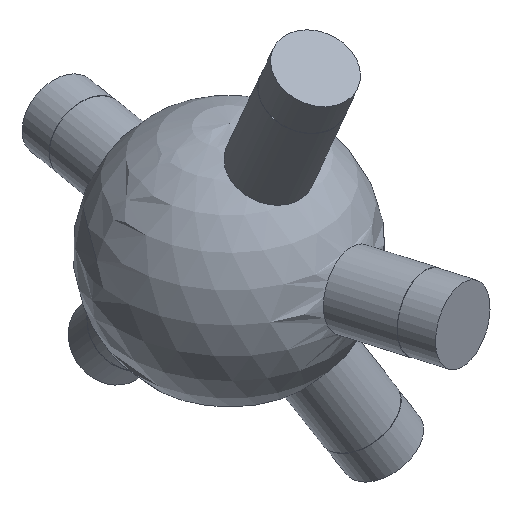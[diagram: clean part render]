
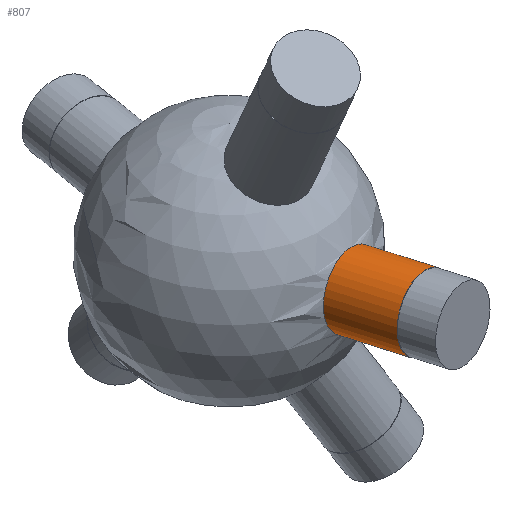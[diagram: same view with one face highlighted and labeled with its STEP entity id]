
A CAD part, isometric view. The second image highlights one B-rep face of the part: STEP entity #807.
In plain terms, the highlighted cylindrical face has radius 6 mm (diameter 12 mm), a full revolution.
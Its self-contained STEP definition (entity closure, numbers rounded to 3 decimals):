
#33 = SPHERICAL_SURFACE('',#34,20.);
#34 = AXIS2_PLACEMENT_3D('',#35,#36,#37);
#35 = CARTESIAN_POINT('',(0.,0.,0.));
#36 = DIRECTION('',(0.,0.,1.));
#37 = DIRECTION('',(1.,0.,-0.));
#415 = EDGE_CURVE('',#416,#416,#418,.T.);
#416 = VERTEX_POINT('',#417);
#417 = CARTESIAN_POINT('',(-2.734,-19.731,
    1.791));
#418 = SURFACE_CURVE('',#419,(#424,#486),.PCURVE_S1.);
#419 = CIRCLE('',#420,6.);
#420 = AXIS2_PLACEMENT_3D('',#421,#422,#423);
#421 = CARTESIAN_POINT('',(3.181,-18.726,1.791
    ));
#422 = DIRECTION('',(0.167,-0.982,0.094)
  );
#423 = DIRECTION('',(0.986,0.167,0.)
  );
#424 = PCURVE('',#33,#425);
#425 = DEFINITIONAL_REPRESENTATION('',(#426),#485);
#426 = B_SPLINE_CURVE_WITH_KNOTS('',8,(#427,#428,#429,#430,#431,#432,
    #433,#434,#435,#436,#437,#438,#439,#440,#441,#442,#443,#444,#445,
    #446,#447,#448,#449,#450,#451,#452,#453,#454,#455,#456,#457,#458,
    #459,#460,#461,#462,#463,#464,#465,#466,#467,#468,#469,#470,#471,
    #472,#473,#474,#475,#476,#477,#478,#479,#480,#481,#482,#483,#484),
  .UNSPECIFIED.,.F.,.F.,(9,7,7,7,7,7,7,7,9),(3.142,
    3.927,4.614,5.216,6.268,
    7.057,7.649,8.537,9.425),
  .UNSPECIFIED.);
#427 = CARTESIAN_POINT('',(4.575,0.09));
#428 = CARTESIAN_POINT('',(4.576,0.06));
#429 = CARTESIAN_POINT('',(4.58,0.031));
#430 = CARTESIAN_POINT('',(4.587,0.002));
#431 = CARTESIAN_POINT('',(4.597,-0.026));
#432 = CARTESIAN_POINT('',(4.61,-0.053));
#433 = CARTESIAN_POINT('',(4.626,-0.078));
#434 = CARTESIAN_POINT('',(4.644,-0.101));
#435 = CARTESIAN_POINT('',(4.684,-0.14));
#436 = CARTESIAN_POINT('',(4.704,-0.157));
#437 = CARTESIAN_POINT('',(4.725,-0.171));
#438 = CARTESIAN_POINT('',(4.749,-0.184));
#439 = CARTESIAN_POINT('',(4.773,-0.194));
#440 = CARTESIAN_POINT('',(4.798,-0.201));
#441 = CARTESIAN_POINT('',(4.824,-0.207));
#442 = CARTESIAN_POINT('',(4.874,-0.211));
#443 = CARTESIAN_POINT('',(4.897,-0.212));
#444 = CARTESIAN_POINT('',(4.92,-0.21));
#445 = CARTESIAN_POINT('',(4.943,-0.206));
#446 = CARTESIAN_POINT('',(4.965,-0.201));
#447 = CARTESIAN_POINT('',(4.987,-0.193));
#448 = CARTESIAN_POINT('',(5.008,-0.184));
#449 = CARTESIAN_POINT('',(5.063,-0.154));
#450 = CARTESIAN_POINT('',(5.095,-0.129));
#451 = CARTESIAN_POINT('',(5.123,-0.1));
#452 = CARTESIAN_POINT('',(5.146,-0.067));
#453 = CARTESIAN_POINT('',(5.164,-0.032));
#454 = CARTESIAN_POINT('',(5.177,0.006));
#455 = CARTESIAN_POINT('',(5.185,0.046));
#456 = CARTESIAN_POINT('',(5.188,0.115));
#457 = CARTESIAN_POINT('',(5.186,0.144));
#458 = CARTESIAN_POINT('',(5.181,0.174));
#459 = CARTESIAN_POINT('',(5.172,0.203));
#460 = CARTESIAN_POINT('',(5.161,0.23));
#461 = CARTESIAN_POINT('',(5.146,0.257));
#462 = CARTESIAN_POINT('',(5.128,0.281));
#463 = CARTESIAN_POINT('',(5.092,0.319));
#464 = CARTESIAN_POINT('',(5.075,0.335));
#465 = CARTESIAN_POINT('',(5.056,0.349));
#466 = CARTESIAN_POINT('',(5.036,0.361));
#467 = CARTESIAN_POINT('',(5.015,0.371));
#468 = CARTESIAN_POINT('',(4.993,0.38));
#469 = CARTESIAN_POINT('',(4.97,0.387));
#470 = CARTESIAN_POINT('',(4.912,0.399));
#471 = CARTESIAN_POINT('',(4.875,0.402));
#472 = CARTESIAN_POINT('',(4.839,0.4));
#473 = CARTESIAN_POINT('',(4.802,0.394));
#474 = CARTESIAN_POINT('',(4.768,0.383));
#475 = CARTESIAN_POINT('',(4.735,0.368));
#476 = CARTESIAN_POINT('',(4.706,0.349));
#477 = CARTESIAN_POINT('',(4.653,0.305));
#478 = CARTESIAN_POINT('',(4.63,0.28));
#479 = CARTESIAN_POINT('',(4.611,0.252));
#480 = CARTESIAN_POINT('',(4.595,0.221));
#481 = CARTESIAN_POINT('',(4.584,0.189));
#482 = CARTESIAN_POINT('',(4.577,0.156));
#483 = CARTESIAN_POINT('',(4.574,0.123));
#484 = CARTESIAN_POINT('',(4.575,0.09));
#485 = ( GEOMETRIC_REPRESENTATION_CONTEXT(2) 
PARAMETRIC_REPRESENTATION_CONTEXT() REPRESENTATION_CONTEXT('2D SPACE',''
  ) );
#486 = PCURVE('',#487,#492);
#487 = CYLINDRICAL_SURFACE('',#488,6.);
#488 = AXIS2_PLACEMENT_3D('',#489,#490,#491);
#489 = CARTESIAN_POINT('',(0.,0.,0.));
#490 = DIRECTION('',(0.167,-0.982,0.094)
  );
#491 = DIRECTION('',(-0.986,-0.167,0.)
  );
#492 = DEFINITIONAL_REPRESENTATION('',(#493),#497);
#493 = LINE('',#494,#495);
#494 = CARTESIAN_POINT('',(-3.142,19.079));
#495 = VECTOR('',#496,1.);
#496 = DIRECTION('',(1.,0.));
#497 = ( GEOMETRIC_REPRESENTATION_CONTEXT(2) 
PARAMETRIC_REPRESENTATION_CONTEXT() REPRESENTATION_CONTEXT('2D SPACE',''
  ) );
#807 = ADVANCED_FACE('',(#808),#487,.T.);
#808 = FACE_BOUND('',#809,.T.);
#809 = EDGE_LOOP('',(#810,#833,#860,#861));
#810 = ORIENTED_EDGE('',*,*,#811,.T.);
#811 = EDGE_CURVE('',#416,#812,#814,.T.);
#812 = VERTEX_POINT('',#813);
#813 = CARTESIAN_POINT('',(-0.801,-31.112,2.88
    ));
#814 = SEAM_CURVE('',#815,(#819,#826),.PCURVE_S1.);
#815 = LINE('',#816,#817);
#816 = CARTESIAN_POINT('',(-5.915,-1.005,
    0.));
#817 = VECTOR('',#818,1.);
#818 = DIRECTION('',(0.167,-0.982,0.094)
  );
#819 = PCURVE('',#487,#820);
#820 = DEFINITIONAL_REPRESENTATION('',(#821),#825);
#821 = LINE('',#822,#823);
#822 = CARTESIAN_POINT('',(6.283,-0.));
#823 = VECTOR('',#824,1.);
#824 = DIRECTION('',(0.,1.));
#825 = ( GEOMETRIC_REPRESENTATION_CONTEXT(2) 
PARAMETRIC_REPRESENTATION_CONTEXT() REPRESENTATION_CONTEXT('2D SPACE',''
  ) );
#826 = PCURVE('',#487,#827);
#827 = DEFINITIONAL_REPRESENTATION('',(#828),#832);
#828 = LINE('',#829,#830);
#829 = CARTESIAN_POINT('',(0.,-0.));
#830 = VECTOR('',#831,1.);
#831 = DIRECTION('',(0.,1.));
#832 = ( GEOMETRIC_REPRESENTATION_CONTEXT(2) 
PARAMETRIC_REPRESENTATION_CONTEXT() REPRESENTATION_CONTEXT('2D SPACE',''
  ) );
#833 = ORIENTED_EDGE('',*,*,#834,.F.);
#834 = EDGE_CURVE('',#812,#812,#835,.T.);
#835 = SURFACE_CURVE('',#836,(#841,#848),.PCURVE_S1.);
#836 = CIRCLE('',#837,6.);
#837 = AXIS2_PLACEMENT_3D('',#838,#839,#840);
#838 = CARTESIAN_POINT('',(5.114,-30.107,2.88
    ));
#839 = DIRECTION('',(0.167,-0.982,0.094)
  );
#840 = DIRECTION('',(-0.986,-0.167,0.
    ));
#841 = PCURVE('',#487,#842);
#842 = DEFINITIONAL_REPRESENTATION('',(#843),#847);
#843 = LINE('',#844,#845);
#844 = CARTESIAN_POINT('',(0.,30.673));
#845 = VECTOR('',#846,1.);
#846 = DIRECTION('',(1.,0.));
#847 = ( GEOMETRIC_REPRESENTATION_CONTEXT(2) 
PARAMETRIC_REPRESENTATION_CONTEXT() REPRESENTATION_CONTEXT('2D SPACE',''
  ) );
#848 = PCURVE('',#849,#854);
#849 = PLANE('',#850);
#850 = AXIS2_PLACEMENT_3D('',#851,#852,#853);
#851 = CARTESIAN_POINT('',(5.114,-30.107,2.88
    ));
#852 = DIRECTION('',(0.167,-0.982,0.094)
  );
#853 = DIRECTION('',(-0.986,-0.167,0.)
  );
#854 = DEFINITIONAL_REPRESENTATION('',(#855),#859);
#855 = CIRCLE('',#856,6.);
#856 = AXIS2_PLACEMENT_2D('',#857,#858);
#857 = CARTESIAN_POINT('',(0.,0.));
#858 = DIRECTION('',(1.,0.));
#859 = ( GEOMETRIC_REPRESENTATION_CONTEXT(2) 
PARAMETRIC_REPRESENTATION_CONTEXT() REPRESENTATION_CONTEXT('2D SPACE',''
  ) );
#860 = ORIENTED_EDGE('',*,*,#811,.F.);
#861 = ORIENTED_EDGE('',*,*,#415,.T.);
